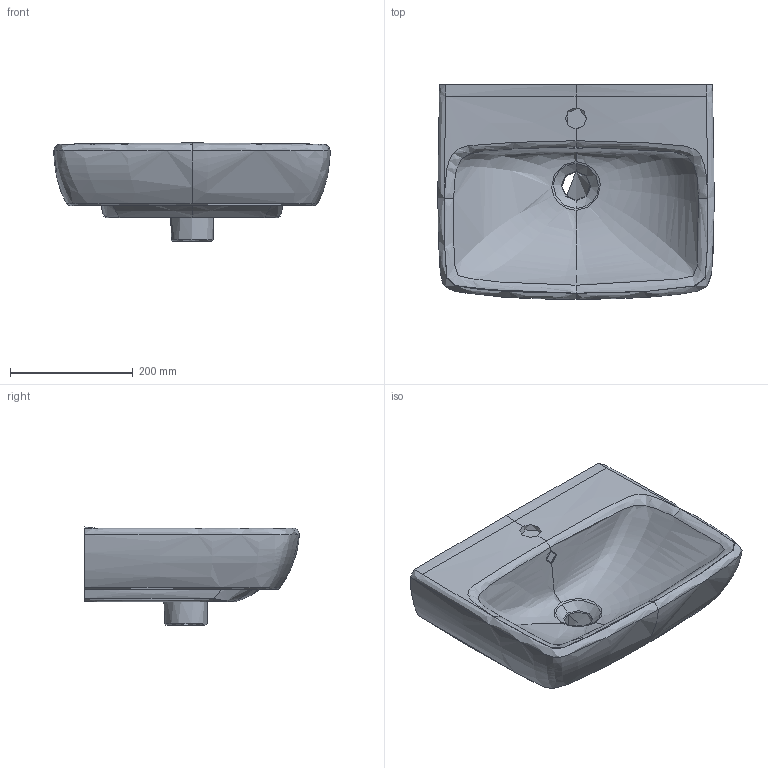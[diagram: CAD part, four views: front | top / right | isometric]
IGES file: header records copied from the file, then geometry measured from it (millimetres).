
Global section: file name: 500.322.01.1; native system: Autodesk Inventor 2018; preprocessor: unknown; author: JANAN; date: 20220317.133925; units: millimetre
Bounding box: 450.26 x 350 x 159.99 mm (x, y, z)
Volume: 9609891.7 mm3; surface area: 514766.5 mm2
Topology: 1 solids, 1 shells, 110 faces, 284 edges, 177 vertices
Faces by surface type: bspline 110
